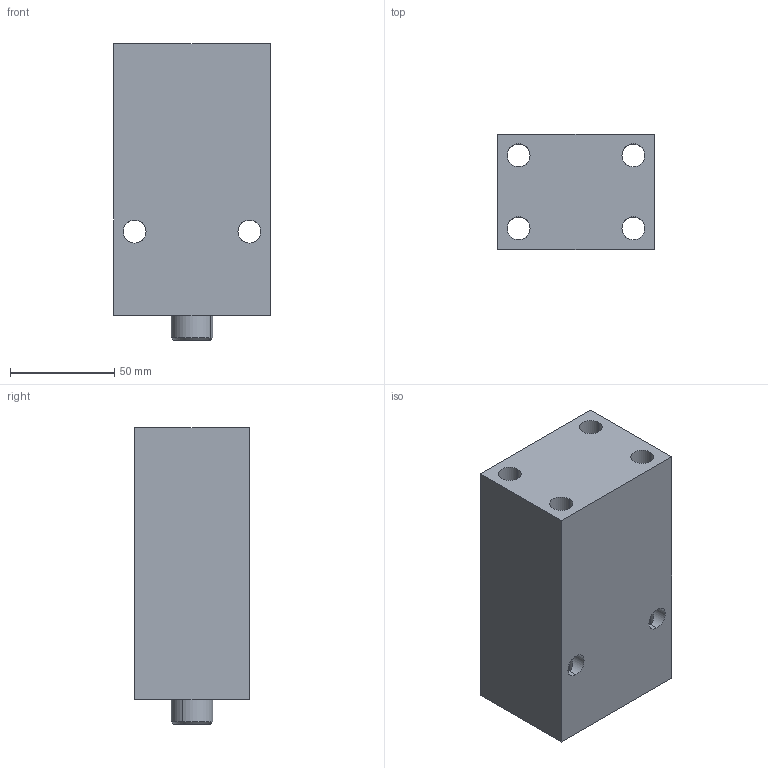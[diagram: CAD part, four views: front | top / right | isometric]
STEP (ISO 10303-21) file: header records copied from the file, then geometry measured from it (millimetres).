
FILE_DESCRIPTION (( 'STEP AP203' ), '1' );
FILE_NAME ('Block cylinder_B01C-275F.STEP', '2022-07-09T18:28:42', ( '' ), ( '' ), 'SwSTEP 2.0', 'SolidWorks 2017', '' );
FILE_SCHEMA (( 'CONFIG_CONTROL_DESIGN' ));
Length unit declared in the file: millimetre
Products named in the file (3): Body_275F_50ST; Piston_275F_50sT; Block cylinder_B01C-275F
Assembly tree (2 placements, depth 2):
  Block cylinder_B01C-275F
    Body_275F_50ST
    Piston_275F_50sT
Bounding box: 75 x 55 x 142 mm (x, y, z)
Volume: 487206.8 mm3; surface area: 73051.7 mm2
Topology: 2 solids, 2 shells, 335 faces, 916 edges, 597 vertices
Faces by surface type: plane 142, bspline 141, cylinder 44, cone 8
Entity records: 16585 total; most frequent: CARTESIAN_POINT 8820, ORIENTED_EDGE 1820, DIRECTION 1052, EDGE_CURVE 910, VERTEX_POINT 597, LINE 538, VECTOR 538, EDGE_LOOP 373
